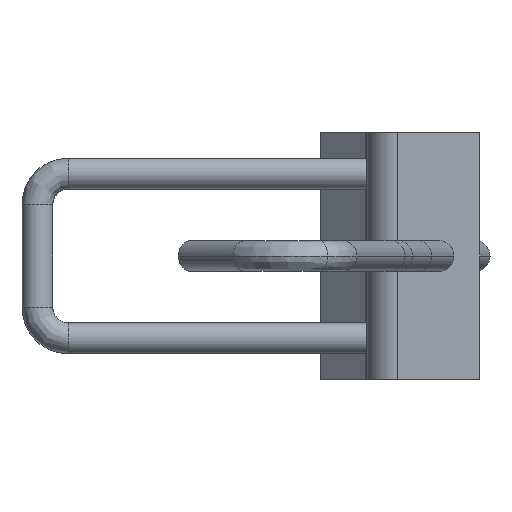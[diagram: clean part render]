
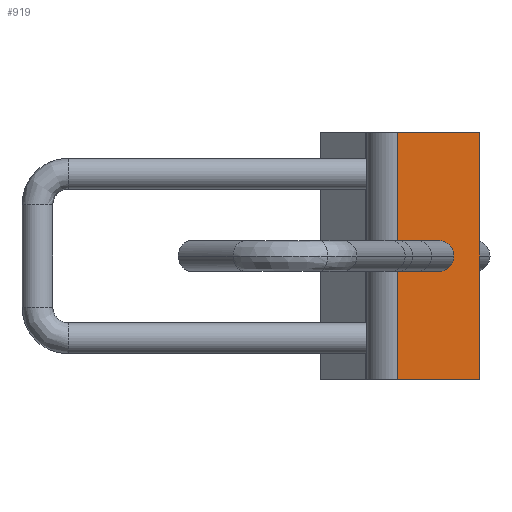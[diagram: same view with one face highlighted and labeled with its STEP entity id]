
A CAD part, left-side view. The second image highlights one B-rep face of the part: STEP entity #919.
In plain terms, the highlighted planar face has unit normal (-1, 0, 0).
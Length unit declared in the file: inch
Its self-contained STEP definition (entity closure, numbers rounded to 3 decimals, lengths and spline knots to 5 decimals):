
#425=EDGE_CURVE('',#1102,#1103,#1104,.T.);
#465=EDGE_CURVE('',#1172,#1102,#1173,.T.);
#483=EDGE_CURVE('',#1204,#1205,#1206,.T.);
#681=EDGE_CURVE('',#1172,#1494,#1495,.T.);
#739=EDGE_CURVE('',#1494,#1103,#1566,.T.);
#919=ADVANCED_FACE('',(#1790,#1791),#1792,.T.);
#927=EDGE_CURVE('',#1205,#1204,#1802,.T.);
#1102=VERTEX_POINT('',#2296);
#1103=VERTEX_POINT('',#2297);
#1104=LINE('',#2298,#2299);
#1172=VERTEX_POINT('',#2477);
#1173=LINE('',#2478,#2479);
#1204=VERTEX_POINT('',#2522);
#1205=VERTEX_POINT('',#2523);
#1206=ELLIPSE('',#2524,0.19058,0.1875);
#1494=VERTEX_POINT('',#3422);
#1495=LINE('',#3423,#3424);
#1566=LINE('',#3562,#3563);
#1790=FACE_OUTER_BOUND('',#3982,.T.);
#1791=FACE_BOUND('',#3983,.T.);
#1792=PLANE('',#3984);
#1802=ELLIPSE('',#3999,0.19058,0.1875);
#2296=CARTESIAN_POINT('',(3.52252,-1.14678,3.0));
#2297=CARTESIAN_POINT('',(3.52252,-0.14678,3.0));
#2298=CARTESIAN_POINT('',(3.52252,-1.14678,3.0));
#2299=VECTOR('',#4268,1.0);
#2477=CARTESIAN_POINT('',(3.52252,-1.14678,0.0));
#2478=CARTESIAN_POINT('',(3.52252,-1.14678,0.0));
#2479=VECTOR('',#4310,1.0);
#2522=CARTESIAN_POINT('',(3.52252,-0.83131,1.5));
#2523=CARTESIAN_POINT('',(3.52252,-0.45015,1.5));
#2524=AXIS2_PLACEMENT_3D('',#4336,#4337,#4338);
#3422=CARTESIAN_POINT('',(3.52252,-0.14678,0.0));
#3423=CARTESIAN_POINT('',(3.52252,-1.14678,0.0));
#3424=VECTOR('',#4683,1.0);
#3562=CARTESIAN_POINT('',(3.52252,-0.14678,0.0));
#3563=VECTOR('',#4766,1.0);
#3982=EDGE_LOOP('',(#5104,#5105,#5106,#5107));
#3983=EDGE_LOOP('',(#5108,#5109));
#3984=AXIS2_PLACEMENT_3D('',#5110,#5111,#5112);
#3999=AXIS2_PLACEMENT_3D('',#5129,#5130,#5131);
#4268=DIRECTION('',(0.0,1.0,0.0));
#4310=DIRECTION('',(0.0,0.0,1.0));
#4336=CARTESIAN_POINT('',(3.52252,-0.64073,1.5));
#4337=DIRECTION('',(-1.0,0.0,0.0));
#4338=DIRECTION('',(0.0,-1.0,0.0));
#4683=DIRECTION('',(0.0,1.0,0.0));
#4766=DIRECTION('',(0.0,0.0,1.0));
#5104=ORIENTED_EDGE('',*,*,#425,.T.);
#5105=ORIENTED_EDGE('',*,*,#739,.F.);
#5106=ORIENTED_EDGE('',*,*,#681,.F.);
#5107=ORIENTED_EDGE('',*,*,#465,.T.);
#5108=ORIENTED_EDGE('',*,*,#927,.F.);
#5109=ORIENTED_EDGE('',*,*,#483,.F.);
#5110=CARTESIAN_POINT('',(3.52252,-0.64678,0.0));
#5111=DIRECTION('',(-1.0,-0.0,0.0));
#5112=DIRECTION('',(0.0,-1.0,-0.0));
#5129=CARTESIAN_POINT('',(3.52252,-0.64073,1.5));
#5130=DIRECTION('',(-1.0,0.0,0.0));
#5131=DIRECTION('',(0.0,-1.0,0.0));
